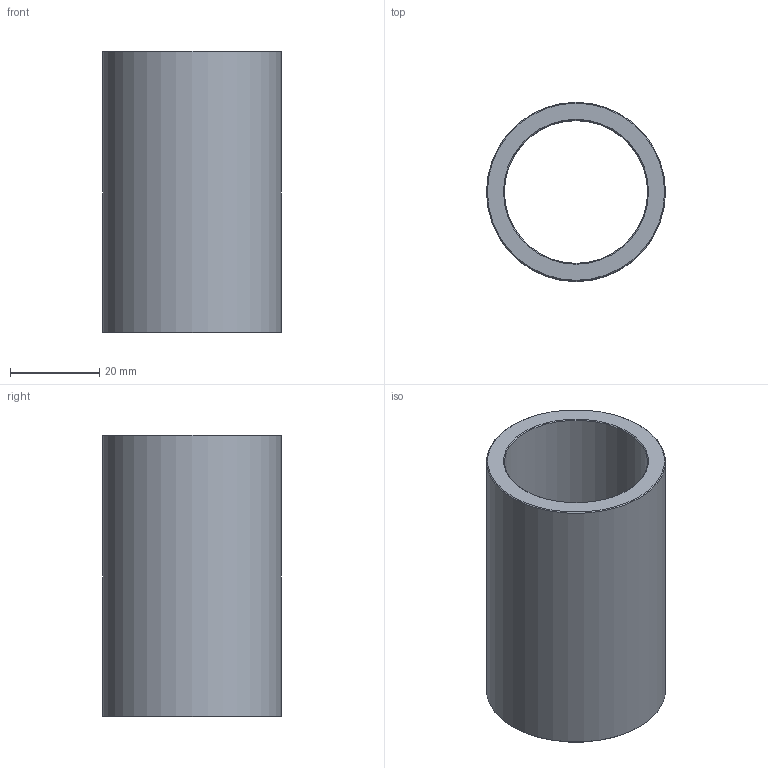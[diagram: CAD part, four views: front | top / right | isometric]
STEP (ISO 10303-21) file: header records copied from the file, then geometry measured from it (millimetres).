
FILE_DESCRIPTION(('STEP AP203'),'1');
FILE_NAME('C:/Users/Rodrigo/Desktop/GA4.032.063-1.step','2016-11-07T17:20:49',(' '),(' '),'Spatial InterOp 3D',' ',' ');
FILE_SCHEMA(('CONFIG_CONTROL_DESIGN'));
Length unit declared in the file: millimetre
Products named in the file (1): 1
Bounding box: 40 x 40 x 63 mm (x, y, z)
Volume: 28491.5 mm3; surface area: 15102 mm2
Topology: 1 solids, 1 shells, 8 faces, 14 edges, 8 vertices
Faces by surface type: cone 4, cylinder 2, plane 2
Full cylindrical faces by diameter (mm): 32 x1, 40 x1
Entity records: 212 total; most frequent: DIRECTION 34, CARTESIAN_POINT 25, AXIS2_PLACEMENT_3D 17, EDGE_LOOP 16, ORIENTED_EDGE 16, FACE_OUTER_BOUND 10, ADVANCED_FACE 8, EDGE_CURVE 8
